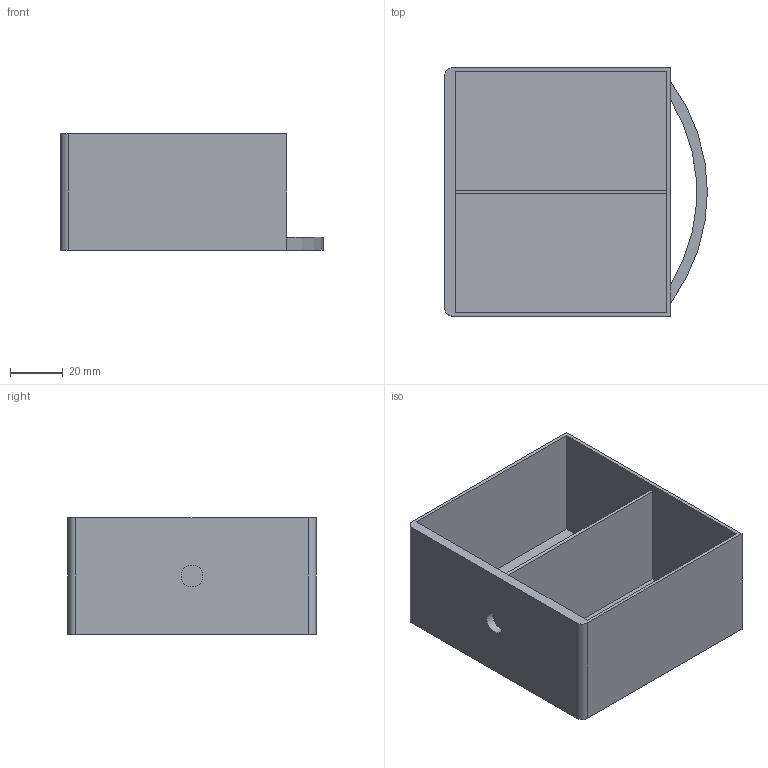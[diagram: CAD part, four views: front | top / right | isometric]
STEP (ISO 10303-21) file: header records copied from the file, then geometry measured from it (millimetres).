
FILE_DESCRIPTION(/* description */ (''),/* implementation_level */ '2;1');
FILE_NAME(/* name */ 'C:/Users/pet3r/Desktop/3D/MOJE/My Drawers/STEP/Drawer 2x2 2-slot.step',/* time_stamp */ '2018-03-31T21:34:17+02:00',/* author */ (''),/* organization */ (''),/* preprocessor_version */ 'ST-DEVELOPER v16.13',/* originating_system */ 'Autodesk Translation Framework v6.5.0.72',/* authorisation */ '');
FILE_SCHEMA (('AUTOMOTIVE_DESIGN { 1 0 10303 214 3 1 1 }'));
Length unit declared in the file: millimetre
Products named in the file (1): Drawer 2x2 2-slot
Bounding box: 100 x 94.5 x 44.5 mm (x, y, z)
Volume: 45290.6 mm3; surface area: 55160.6 mm2
Topology: 1 solids, 1 shells, 22 faces, 57 edges, 38 vertices
Faces by surface type: plane 16, cylinder 6
Full cylindrical faces by diameter (mm): 8.3 x1
Entity records: 717 total; most frequent: CARTESIAN_POINT 118, DIRECTION 115, ORIENTED_EDGE 114, EDGE_CURVE 57, LINE 45, VECTOR 45, VERTEX_POINT 38, AXIS2_PLACEMENT_3D 35
